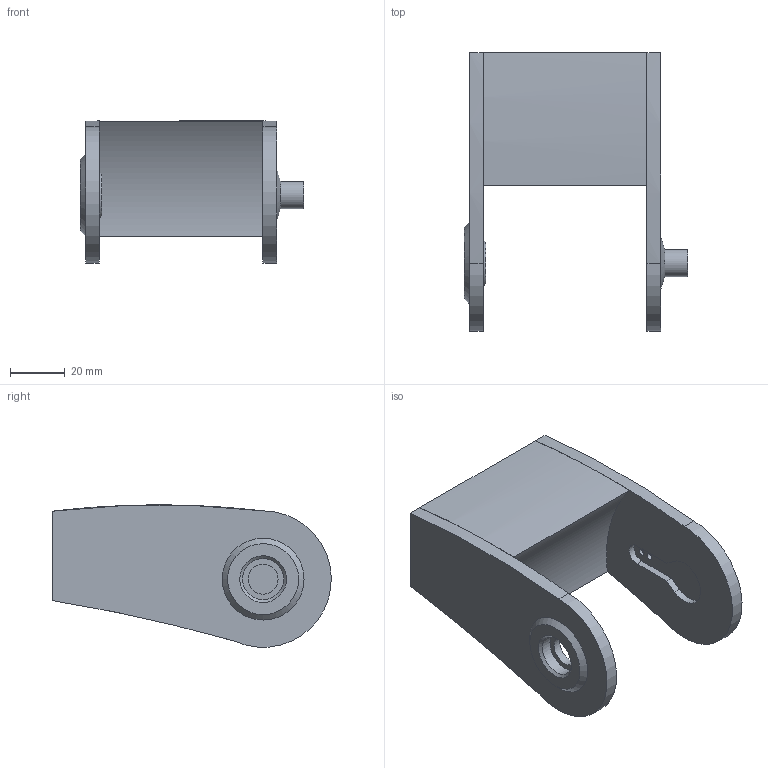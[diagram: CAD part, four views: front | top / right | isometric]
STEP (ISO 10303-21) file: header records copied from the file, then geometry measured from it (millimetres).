
FILE_DESCRIPTION(/* description */ (''),/* implementation_level */ '2;1');
FILE_NAME(/* name */ 'left_claw_top.step',/* time_stamp */ '2026-06-11T18:48:02-06:00',/* author */ (''),/* organization */ (''),/* preprocessor_version */ 'ST-DEVELOPER v20.1',/* originating_system */ 'Autodesk Translation Framework v15.8.0.0',/* authorisation */ '');
FILE_SCHEMA (('AUTOMOTIVE_DESIGN { 1 0 10303 214 3 1 1 }'));
Length unit declared in the file: millimetre
Products named in the file (1): left_claw_top
Bounding box: 82 x 102.07 x 52.11 mm (x, y, z)
Volume: 134115.7 mm3; surface area: 27235.4 mm2
Topology: 1 solids, 1 shells, 36 faces, 85 edges, 56 vertices
Faces by surface type: plane 16, cylinder 15, cone 5
Full cylindrical faces by diameter (mm): 2.5 x2, 9.9 x1, 11 x1, 15.1 x1
Entity records: 1107 total; most frequent: DIRECTION 201, CARTESIAN_POINT 178, ORIENTED_EDGE 170, EDGE_CURVE 85, AXIS2_PLACEMENT_3D 79, VERTEX_POINT 56, EDGE_LOOP 47, LINE 43
